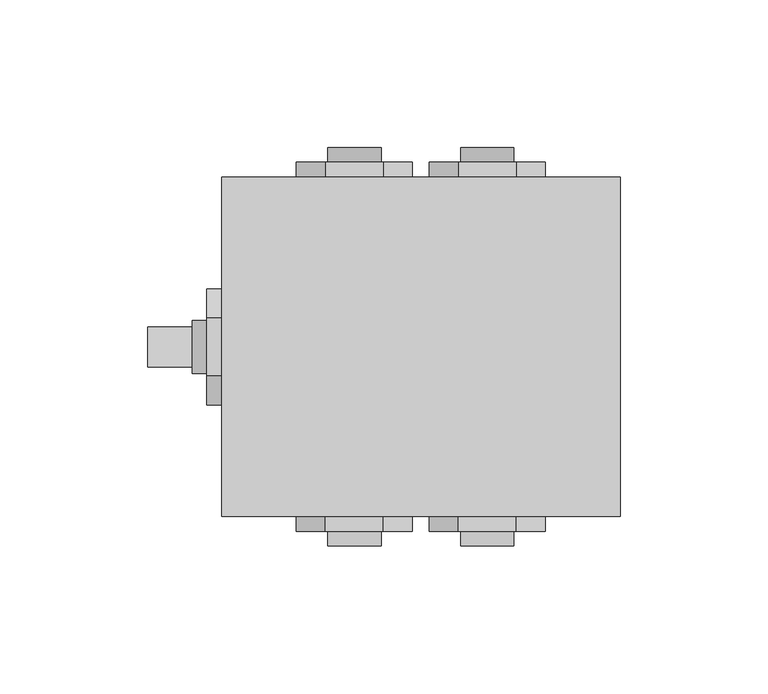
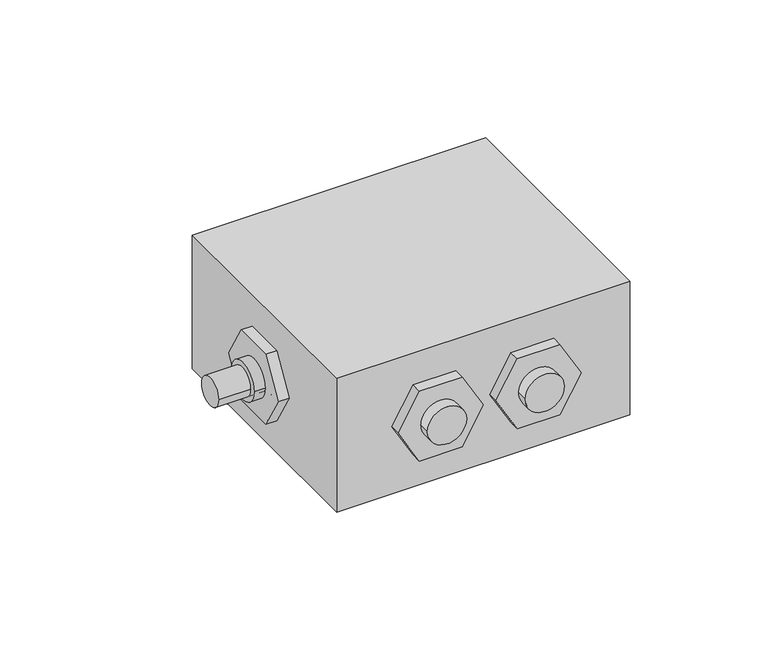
"""IFC4 building model written with IfcOpenShell, lengths in millimetres: cable carrier fitting geometry, DEVI EasyConnect EC-JB4 : DEVI EasyConnect EC-JB4_98300877."""

from ifc_helpers import new_model, si_unit, point, frame, frame_2d, origin, origin_2d, place, context, project, spatial, polyline, circle_curve, trimmed, segment, composite_curve, outline, extrude, source, transform, mapped, element, save


def cable_carrier_fitting_56bb56f9(model_context):
    return source(origin(), model_context, "Body", "SweptSolid", [
        extrude(outline(composite_curve([segment(trimmed(circle_curve(origin_2d(), 9.0), [point((9.0, 0.0))], [point((-9.0, 0.0))], False, "CARTESIAN"), True, "CONTINUOUS"), segment(trimmed(circle_curve(origin_2d(), 9.0), [point((-9.0, 0.0))], [point((9.0, 0.0))], False, "CARTESIAN"), True, "CONTINUOUS")], self_intersect=False)), frame((15.0, 0.0, 0.0), z_axis=(1.0, 0.0, 0.0), x_axis=(0.0, 1.0, 0.0)), (0.0, 0.0, 1.0), 10.0),
        extrude(outline(polyline([(19.6299092, 0.0), (9.8149546, -17.0), (-9.8149546, -17.0), (-19.6299092, 0.0), (-9.8149546, 17.0), (9.8149546, 17.0), (19.6299092, 0.0)])), frame((20.0, 0.0, 0.0), z_axis=(1.0, 0.0, 0.0), x_axis=(0.0, 1.0, 0.0)), (0.0, 0.0, 1.0), 5.0),
        extrude(outline(composite_curve([segment(trimmed(circle_curve(frame_2d((0.0, 70.0)), 9.0), [point((0.0, 79.0))], [point((0.0, 61.0))], False, "CARTESIAN"), True, "CONTINUOUS"), segment(trimmed(circle_curve(frame_2d((0.0, 70.0)), 9.0), [point((0.0, 61.0))], [point((0.0, 79.0))], False, "CARTESIAN"), True, "CONTINUOUS")], self_intersect=False)), frame((0.0, 57.5, 0.0), z_axis=(0.0, 1.0, 0.0), x_axis=(0.0, 0.0, 1.0)), (0.0, 0.0, 1.0), 10.0),
        extrude(outline(polyline([(0.0, 89.6299092), (17.0, 79.8149546), (17.0, 60.1850454), (0.0, 50.3700908), (-17.0, 60.1850454), (-17.0, 79.8149546), (0.0, 89.6299092)])), frame((0.0, 57.5, 0.0), z_axis=(0.0, 1.0, 0.0), x_axis=(0.0, 0.0, 1.0)), (0.0, 0.0, 1.0), 5.0),
        extrude(outline(composite_curve([segment(trimmed(circle_curve(frame_2d((0.0, 115.0)), 9.0), [point((0.0, 124.0))], [point((0.0, 106.0))], False, "CARTESIAN"), True, "CONTINUOUS"), segment(trimmed(circle_curve(frame_2d((0.0, 115.0)), 9.0), [point((0.0, 106.0))], [point((0.0, 124.0))], False, "CARTESIAN"), True, "CONTINUOUS")], self_intersect=False)), frame((0.0, 57.5, 0.0), z_axis=(0.0, 1.0, 0.0), x_axis=(0.0, 0.0, 1.0)), (0.0, 0.0, 1.0), 10.0),
        extrude(outline(polyline([(0.0, 134.6299092), (17.0, 124.8149546), (17.0, 105.1850454), (0.0, 95.3700908), (-17.0, 105.1850454), (-17.0, 124.8149546), (0.0, 134.6299092)])), frame((0.0, 57.5, 0.0), z_axis=(0.0, 1.0, 0.0), x_axis=(0.0, 0.0, 1.0)), (0.0, 0.0, 1.0), 5.0),
        extrude(outline(composite_curve([segment(trimmed(circle_curve(frame_2d((0.0, 115.0)), 9.0), [point((0.0, 106.0))], [point((0.0, 124.0))], False, "CARTESIAN"), True, "CONTINUOUS"), segment(trimmed(circle_curve(frame_2d((0.0, 115.0)), 9.0), [point((0.0, 124.0))], [point((0.0, 106.0))], False, "CARTESIAN"), True, "CONTINUOUS")], self_intersect=False)), frame((0.0, -67.5, 0.0), z_axis=(0.0, 1.0, 0.0), x_axis=(0.0, 0.0, 1.0)), (0.0, 0.0, 1.0), 10.0),
        extrude(outline(polyline([(0.0, 95.3700908), (-17.0, 105.1850454), (-17.0, 124.8149546), (0.0, 134.6299092), (17.0, 124.8149546), (17.0, 105.1850454), (0.0, 95.3700908)])), frame((0.0, -62.5, 0.0), z_axis=(0.0, 1.0, 0.0), x_axis=(0.0, 0.0, 1.0)), (0.0, 0.0, 1.0), 5.0),
        extrude(outline(composite_curve([segment(trimmed(circle_curve(frame_2d((0.0, 70.0)), 9.0), [point((0.0, 61.0))], [point((0.0, 79.0))], False, "CARTESIAN"), True, "CONTINUOUS"), segment(trimmed(circle_curve(frame_2d((0.0, 70.0)), 9.0), [point((0.0, 79.0))], [point((0.0, 61.0))], False, "CARTESIAN"), True, "CONTINUOUS")], self_intersect=False)), frame((0.0, -67.5, 0.0), z_axis=(0.0, 1.0, 0.0), x_axis=(0.0, 0.0, 1.0)), (0.0, 0.0, 1.0), 10.0),
        extrude(outline(polyline([(0.0, 50.3700908), (-17.0, 60.1850454), (-17.0, 79.8149546), (0.0, 89.6299092), (17.0, 79.8149546), (17.0, 60.1850454), (0.0, 50.3700908)])), frame((0.0, -62.5, 0.0), z_axis=(0.0, 1.0, 0.0), x_axis=(0.0, 0.0, 1.0)), (0.0, 0.0, 1.0), 5.0),
        extrude(outline(composite_curve([segment(trimmed(circle_curve(origin_2d(), 6.75), [point((-6.75, 0.0))], [point((6.75, 0.0))], False, "CARTESIAN"), True, "CONTINUOUS"), segment(trimmed(circle_curve(origin_2d(), 6.75), [point((6.75, 0.0))], [point((-6.75, 0.0))], False, "CARTESIAN"), True, "CONTINUOUS")], self_intersect=False)), frame((0.0, 0.0, 0.0), z_axis=(1.0, 0.0, 0.0), x_axis=(0.0, 1.0, 0.0)), (0.0, 0.0, 1.0), 70.0),
        extrude(outline(polyline([(160.0, 57.5), (160.0, -57.5), (25.0, -57.5), (25.0, 57.5), (160.0, 57.5)])), frame((0.0, 0.0, -32.5), z_axis=(0.0, 0.0, 1.0), x_axis=(1.0, 0.0, 0.0)), (0.0, 0.0, 1.0), 65.0),
    ])


if __name__ == "__main__":
    model = new_model("IFC4")
    model_context = context("Model", 3, world=origin())
    ifc_project = project(units=[si_unit("LENGTHUNIT", "METRE", prefix="MILLI")], contexts=[model_context])
    site = spatial("IfcSite", under=ifc_project)
    building = spatial("IfcBuilding", under=site)
    placement = place(None, origin())
    cable_carrier_fitting_shape = cable_carrier_fitting_56bb56f9(model_context)
    element("IfcCableCarrierFitting", 1, ObjectType="DEVI EasyConnect EC-JB4 : DEVI EasyConnect EC-JB4_98300877", at=placement, inside=building, context=model_context, shape_type="MappedRepresentation", body=[
        mapped(cable_carrier_fitting_shape, transform((0.0, 0.0, 0.0), x_axis=(1.0, 0.0, 0.0), y_axis=(0.0, 1.0, 0.0), z_axis=(0.0, 0.0, 1.0))),
    ])
    save(model, "model.ifc")
